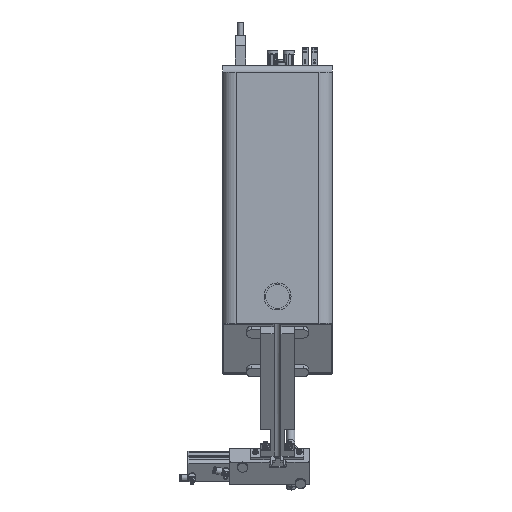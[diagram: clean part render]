
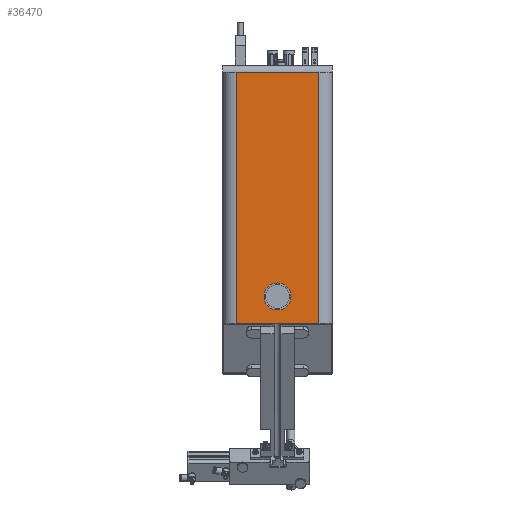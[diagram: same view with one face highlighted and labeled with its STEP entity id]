
A CAD part, top view. The second image highlights one B-rep face of the part: STEP entity #36470.
In plain terms, the highlighted planar face has unit normal (0, 0, 1).
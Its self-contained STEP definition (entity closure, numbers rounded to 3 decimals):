
#666=FACE_BOUND('',#11428,.T.);
#1234=PLANE('',#39062);
#3021=LINE('',#57375,#6126);
#3027=LINE('',#57393,#6132);
#3031=LINE('',#57405,#6136);
#3032=LINE('',#57407,#6137);
#6126=VECTOR('',#44998,123.);
#6132=VECTOR('',#45012,123.);
#6136=VECTOR('',#45028,373.);
#6137=VECTOR('',#45031,373.);
#9397=FACE_OUTER_BOUND('',#11427,.T.);
#11427=EDGE_LOOP('',(#26696,#26697,#26698,#26699));
#11428=EDGE_LOOP('',(#26700,#26701));
#13525=CIRCLE('',#39006,10.);
#13526=CIRCLE('',#39007,10.);
#15875=VERTEX_POINT('',#57262);
#15876=VERTEX_POINT('',#57263);
#15920=VERTEX_POINT('',#57373);
#15921=VERTEX_POINT('',#57374);
#15928=VERTEX_POINT('',#57390);
#15929=VERTEX_POINT('',#57392);
#19865=EDGE_CURVE('',#15875,#15876,#13525,.T.);
#19866=EDGE_CURVE('',#15876,#15875,#13526,.T.);
#19917=EDGE_CURVE('',#15920,#15921,#3021,.T.);
#19926=EDGE_CURVE('',#15928,#15929,#3027,.T.);
#19933=EDGE_CURVE('',#15928,#15920,#3031,.T.);
#19934=EDGE_CURVE('',#15929,#15921,#3032,.T.);
#26696=ORIENTED_EDGE('',*,*,#19917,.T.);
#26697=ORIENTED_EDGE('',*,*,#19934,.F.);
#26698=ORIENTED_EDGE('',*,*,#19926,.F.);
#26699=ORIENTED_EDGE('',*,*,#19933,.T.);
#26700=ORIENTED_EDGE('',*,*,#19865,.T.);
#26701=ORIENTED_EDGE('',*,*,#19866,.T.);
#36470=ADVANCED_FACE('',(#9397,#666),#1234,.F.);
#39006=AXIS2_PLACEMENT_3D('',#57264,#44886,#44887);
#39007=AXIS2_PLACEMENT_3D('',#57265,#44888,#44889);
#39062=AXIS2_PLACEMENT_3D('',#57406,#45029,#45030);
#44886=DIRECTION('center_axis',(0.,0.,
-1.));
#44887=DIRECTION('ref_axis',(1.,0.,0.));
#44888=DIRECTION('center_axis',(0.,0.,
-1.));
#44889=DIRECTION('ref_axis',(1.,0.,0.));
#44998=DIRECTION('',(1.,0.,0.));
#45012=DIRECTION('',(1.,0.,0.));
#45028=DIRECTION('',(0.,-1.,0.));
#45029=DIRECTION('center_axis',(0.,0.,
-1.));
#45030=DIRECTION('ref_axis',(-1.,0.,0.));
#45031=DIRECTION('',(0.,-1.,0.));
#57262=CARTESIAN_POINT('',(10.,40.028,384.158));
#57263=CARTESIAN_POINT('',(-10.,40.028,384.158));
#57264=CARTESIAN_POINT('Origin',(0.,40.028,
384.158));
#57265=CARTESIAN_POINT('Origin',(0.,40.028,
384.158));
#57373=CARTESIAN_POINT('',(-61.5,0.028,384.158));
#57374=CARTESIAN_POINT('',(61.5,0.028,384.158));
#57375=CARTESIAN_POINT('',(-61.5,0.028,384.158));
#57390=CARTESIAN_POINT('',(-61.5,373.028,384.158));
#57392=CARTESIAN_POINT('',(61.5,373.028,384.158));
#57393=CARTESIAN_POINT('',(-61.5,373.028,384.158));
#57405=CARTESIAN_POINT('',(-61.5,373.028,384.158));
#57406=CARTESIAN_POINT('Origin',(-61.5,373.028,384.158));
#57407=CARTESIAN_POINT('',(61.5,373.028,384.158));
